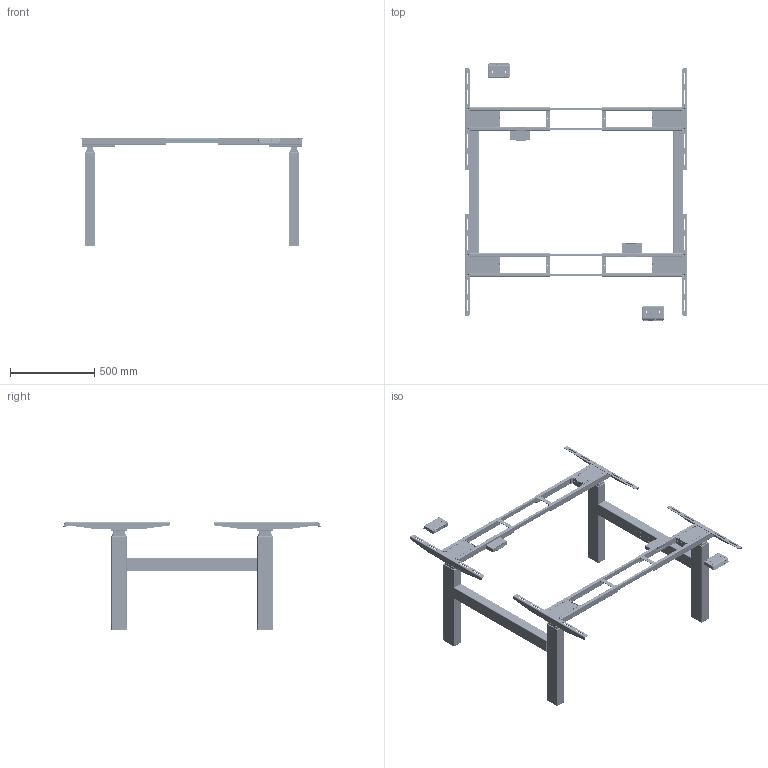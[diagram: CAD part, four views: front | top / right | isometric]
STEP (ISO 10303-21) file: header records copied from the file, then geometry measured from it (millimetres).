
FILE_DESCRIPTION((''),'2;1');
FILE_NAME('_AK2YJYT-YZB3-M02_X2_ASM','2024-02-04T13:30:10',('RMF'),(''),'CREO PARAMETRIC BY PTC INC, 2019030','CREO PARAMETRIC BY PTC INC, 2019030','');
FILE_SCHEMA(('CONFIG_CONTROL_DESIGN'));
Products named in the file (54): AK-YZB3-SG01-547_47BOS-3_1; AK-YZB3-SG01-547_47BOS-1_1; 1_ASM_1_ASM; AK-YZB3-SG01-547_47BOS-2_1; 1_13_059_X_AK-YZB3-SG01-547_47B_ASM; 1_14_011_X_AK-YZB3-ZG01-512_58B; 1_96_008_XAK-YZB3-XG01-51-17529; AK-YZF2-XG01-585TK_60-3-V2_1; COPY__1__OF_AK-YZB3-XG01-526-69; 1_96_008_XAK-YZB3-XG01-51-17521_ASM; PLASTIC_FOOTING-90X60X36_1; 1_23_001_1_189X96X13_1; AK-ZHHL01YJ-YF500A-1_1; AK-ZHHL01YJ-500A-5_1; AK-ZHHL01YJ-500A-3_1; AK-ZHHL01YJ-500A-4-V2_1; AK-ZHHL01YJ-M500A-2-V2_1; AK-ZHHL01YJ-M500A-WC_ASM_1_ASM; 1_10_042_X_AK-ZYS05Y-600WC_S_1; PRODUCT1_ASM_1_ASM; PRODUCT2_ASM_1_ASM; AK-ZHHL02J-990B_1; AK-ZHHL02J-990B_ZHJ__1_ASM_1_ASM; 1_23_075_X_P-YBHT01; 1_23_079_X_P-YBHT01; DIANLUBAN_ASM; _X2_570689D2_X0_22; DIZUO_1; DIZUO_ASM; SHANGGAI_1; SHANGGAI_2; SHANGGAI_3; SHANGGAI_4; SHANGGAI_5; SHANGGAI_6; SHANGGAI_7; SHANGGAI_ASM; ASM_ASM; WP-H20_ASM; AK2YJYT-YZB3-M01_ASM_1_ASM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
Assembly tree (68 placements, depth 8):
  _AK2YJYT-YZB3-M02_X2_ASM
    AK2YJYT-YZB3-M01X2-T031_-02_ASM_ASM
      AK2YJYT-YZB3-M01X2-T031-02_ASM__ASM
        AK2YJYT-YZB3-M01_ASM_1_ASM  x2
          PRODUCT1_ASM_1_ASM
            1_13_059_X_AK-YZB3-SG01-547_47B_ASM
              1_ASM_1_ASM
                AK-YZB3-SG01-547_47BOS-3_1
                AK-YZB3-SG01-547_47BOS-1_1
              AK-YZB3-SG01-547_47BOS-2_1
            1_14_011_X_AK-YZB3-ZG01-512_58B
            1_96_008_XAK-YZB3-XG01-51-17521_ASM
              1_96_008_XAK-YZB3-XG01-51-17529
              AK-YZF2-XG01-585TK_60-3-V2_1
              COPY__1__OF_AK-YZB3-XG01-526-69
            PLASTIC_FOOTING-90X60X36_1
            1_23_001_1_189X96X13_1
            AK-ZHHL01YJ-M500A-WC_ASM_1_ASM
              AK-ZHHL01YJ-YF500A-1_1  x2
              AK-ZHHL01YJ-500A-5_1  x2
              AK-ZHHL01YJ-500A-3_1
              AK-ZHHL01YJ-500A-4-V2_1
              AK-ZHHL01YJ-M500A-2-V2_1
            1_10_042_X_AK-ZYS05Y-600WC_S_1
          PRODUCT2_ASM_1_ASM
            1_13_059_X_AK-YZB3-SG01-547_47B_ASM
              1_ASM_1_ASM
                AK-YZB3-SG01-547_47BOS-3_1
                AK-YZB3-SG01-547_47BOS-1_1
              AK-YZB3-SG01-547_47BOS-2_1
            1_14_011_X_AK-YZB3-ZG01-512_58B
            1_96_008_XAK-YZB3-XG01-51-17521_ASM
              1_96_008_XAK-YZB3-XG01-51-17529
              AK-YZF2-XG01-585TK_60-3-V2_1
              COPY__1__OF_AK-YZB3-XG01-526-69
            PLASTIC_FOOTING-90X60X36_1
            1_23_001_1_189X96X13_1
            AK-ZHHL01YJ-M500A-WC_ASM_1_ASM
              AK-ZHHL01YJ-YF500A-1_1  x2
              AK-ZHHL01YJ-500A-5_1  x2
              AK-ZHHL01YJ-500A-3_1
              AK-ZHHL01YJ-500A-4-V2_1
              AK-ZHHL01YJ-M500A-2-V2_1
            1_10_042_X_AK-ZYS05Y-600WC_S_1
          AK-ZHHL02J-990B_ZHJ__1_ASM_1_ASM
            AK-ZHHL02J-990B_1  x2
          1_23_075_X_P-YBHT01
          1_23_079_X_P-YBHT01
          WP-H20_ASM
            ASM_ASM
              DIANLUBAN_ASM
              DIZUO_ASM
                _X2_570689D2_X0_22
                DIZUO_1
              SHANGGAI_ASM
                SHANGGAI_1
                SHANGGAI_2
                SHANGGAI_3
                SHANGGAI_4
                SHANGGAI_5
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Bounding box: 1315.94 x 1524.23 x 640.8 mm (x, y, z)
Volume: 7691758.5 mm3; surface area: 7085154.3 mm2
Topology: 106 solids, 114 shells, 22296 faces, 64618 edges, 42678 vertices
Faces by surface type: plane 17412, cylinder 3836, cone 504, bspline 200, extrusion 162, torus 158, sphere 24
Entity records: 217567 total; most frequent: CARTESIAN_POINT 50653, ORIENTED_EDGE 36168, DIRECTION 32249, EDGE_CURVE 18086, VECTOR 14779, LINE 14698, VERTEX_POINT 11929, AXIS2_PLACEMENT_3D 8735
